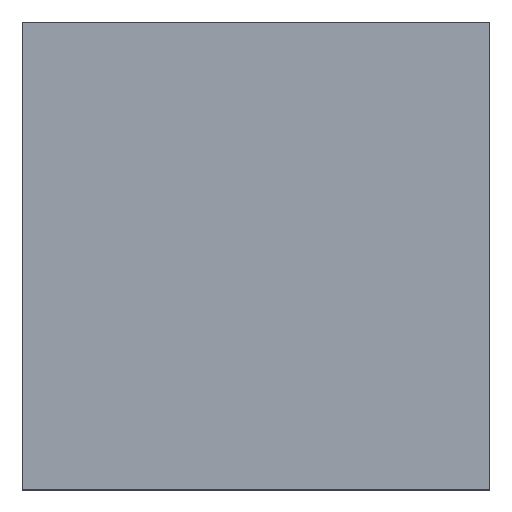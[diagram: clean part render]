
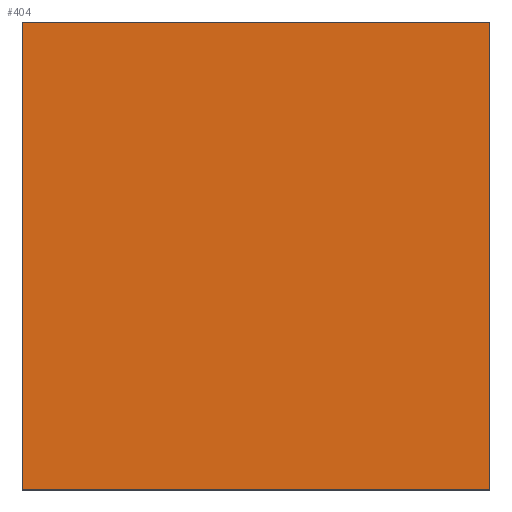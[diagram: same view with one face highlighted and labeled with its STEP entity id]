
A CAD part, top view. The second image highlights one B-rep face of the part: STEP entity #404.
In plain terms, the highlighted planar face has unit normal (0, 0, 1).
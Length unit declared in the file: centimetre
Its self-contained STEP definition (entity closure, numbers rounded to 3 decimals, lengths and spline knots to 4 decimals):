
#18 = CARTESIAN_POINT ( 'NONE',  ( 0., 0., 1000. ) ) ;
#22 = CARTESIAN_POINT ( 'NONE',  ( 1000., 0., 1000. ) ) ;
#27 = CARTESIAN_POINT ( 'NONE',  ( 1000., 1000., 1000. ) ) ;
#30 = DIRECTION ( 'NONE',  ( 1., 0., 0. ) ) ;
#77 = DIRECTION ( 'NONE',  ( 0., 0., 1. ) ) ;
#95 = CARTESIAN_POINT ( 'NONE',  ( 0., 0., 1000. ) ) ;
#163 = LINE ( 'NONE', #95, #736 ) ;
#170 = VERTEX_POINT ( 'NONE', #815 ) ;
#176 = ORIENTED_EDGE ( 'NONE', *, *, #724, .T. ) ;
#219 = LINE ( 'NONE', #27, #461 ) ;
#247 = VECTOR ( 'NONE', #578, 100. ) ;
#256 = LINE ( 'NONE', #838, #247 ) ;
#278 = DIRECTION ( 'NONE',  ( 0., 1., 0. ) ) ;
#282 = EDGE_CURVE ( 'NONE', #583, #170, #256, .T. ) ;
#404 = ADVANCED_FACE ( 'NONE', ( #752 ), #499, .T. ) ;
#461 = VECTOR ( 'NONE', #278, 100. ) ;
#464 = VERTEX_POINT ( 'NONE', #22 ) ;
#466 = LINE ( 'NONE', #470, #847 ) ;
#470 = CARTESIAN_POINT ( 'NONE',  ( 0., 1000., 1000. ) ) ;
#487 = ORIENTED_EDGE ( 'NONE', *, *, #494, .T. ) ;
#494 = EDGE_CURVE ( 'NONE', #464, #586, #219, .T. ) ;
#499 = PLANE ( 'NONE',  #622 ) ;
#524 = CARTESIAN_POINT ( 'NONE',  ( 0., 1000., 1000. ) ) ;
#578 = DIRECTION ( 'NONE',  ( 0., -1., 0. ) ) ;
#581 = EDGE_LOOP ( 'NONE', ( #846, #782, #487, #176 ) ) ;
#583 = VERTEX_POINT ( 'NONE', #524 ) ;
#586 = VERTEX_POINT ( 'NONE', #827 ) ;
#622 = AXIS2_PLACEMENT_3D ( 'NONE', #18, #77, #630 ) ;
#630 = DIRECTION ( 'NONE',  ( 1., 0., 0. ) ) ;
#634 = EDGE_CURVE ( 'NONE', #170, #464, #163, .T. ) ;
#724 = EDGE_CURVE ( 'NONE', #586, #583, #466, .T. ) ;
#736 = VECTOR ( 'NONE', #30, 100. ) ;
#752 = FACE_OUTER_BOUND ( 'NONE', #581, .T. ) ;
#782 = ORIENTED_EDGE ( 'NONE', *, *, #634, .T. ) ;
#815 = CARTESIAN_POINT ( 'NONE',  ( 0., 0., 1000. ) ) ;
#827 = CARTESIAN_POINT ( 'NONE',  ( 1000., 1000., 1000. ) ) ;
#838 = CARTESIAN_POINT ( 'NONE',  ( 0., 1000., 1000. ) ) ;
#846 = ORIENTED_EDGE ( 'NONE', *, *, #282, .T. ) ;
#847 = VECTOR ( 'NONE', #859, 100. ) ;
#859 = DIRECTION ( 'NONE',  ( -1., 0., 0. ) ) ;
